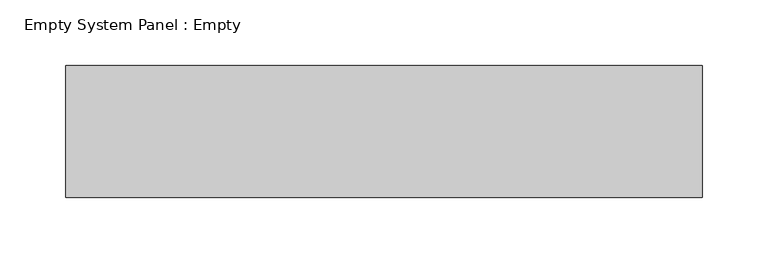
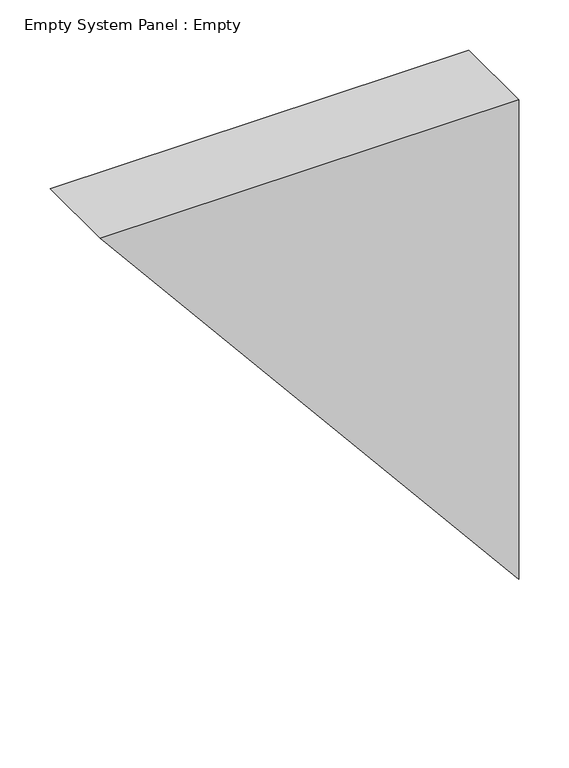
"""IFC4 building model written with IfcOpenShell, lengths in millimetres: plate geometry, Empty System Panel : Empty."""

from ifc_helpers import new_model, si_unit, frame, origin, place, context, project, spatial, polyline, outline, extrude, source, transform, mapped, element, save


def empty_system_panel_empty_817f0ac5(model_context):
    return source(origin(), model_context, "Body", "SweptSolid", [
        extrude(outline(polyline([(585.3766381, -241.644078), (0.0, 241.644078), (585.3766381, 241.644078), (585.3766381, -241.644078)])), frame((0.0, -50.0, 0.0), z_axis=(0.0, 1.0, 0.0), x_axis=(0.0, 0.0, 1.0)), (0.0, 0.0, 1.0), 100.0),
    ])


if __name__ == "__main__":
    model = new_model("IFC4")
    model_context = context("Model", 3, world=origin())
    ifc_project = project(units=[si_unit("LENGTHUNIT", "METRE", prefix="MILLI")], contexts=[model_context])
    site = spatial("IfcSite", under=ifc_project)
    building = spatial("IfcBuilding", under=site)
    placement = place(None, origin())
    empty_system_panel_empty_shape = empty_system_panel_empty_817f0ac5(model_context)
    element("IfcPlate", 1, ObjectType="Empty System Panel : Empty", at=placement, inside=building, context=model_context, shape_type="MappedRepresentation", body=[
        mapped(empty_system_panel_empty_shape, transform((0.0, 0.0, 0.0), x_axis=(1.0, 0.0, 0.0), y_axis=(0.0, 1.0, 0.0), z_axis=(0.0, 0.0, 1.0))),
    ])
    save(model, "model.ifc")
